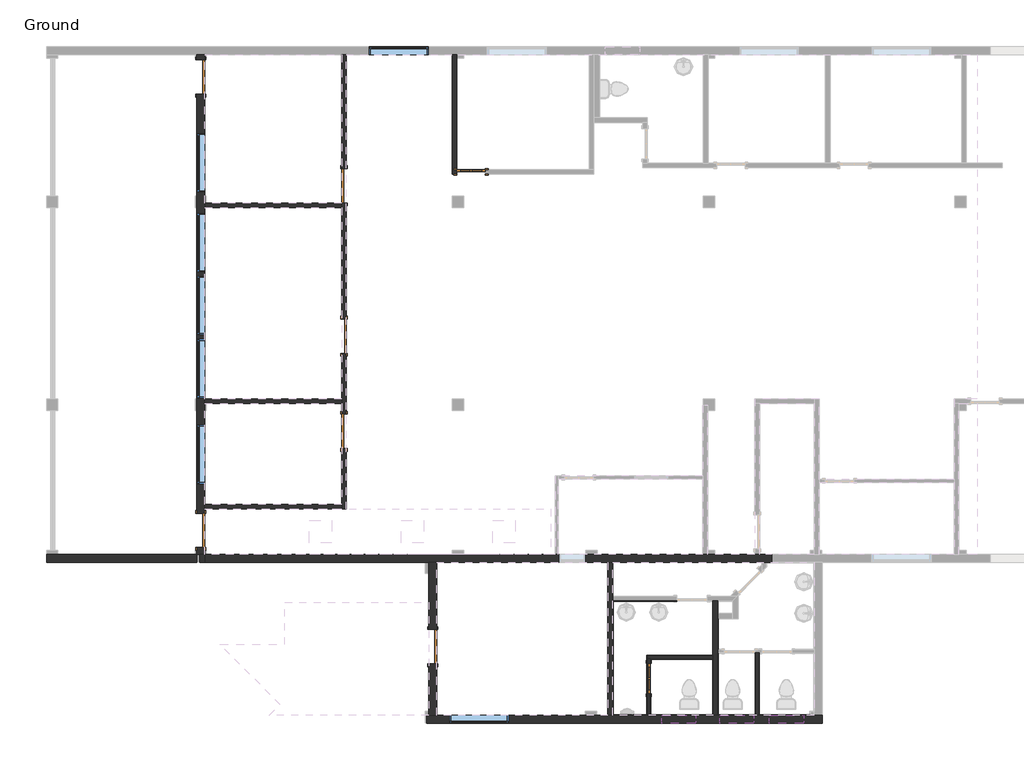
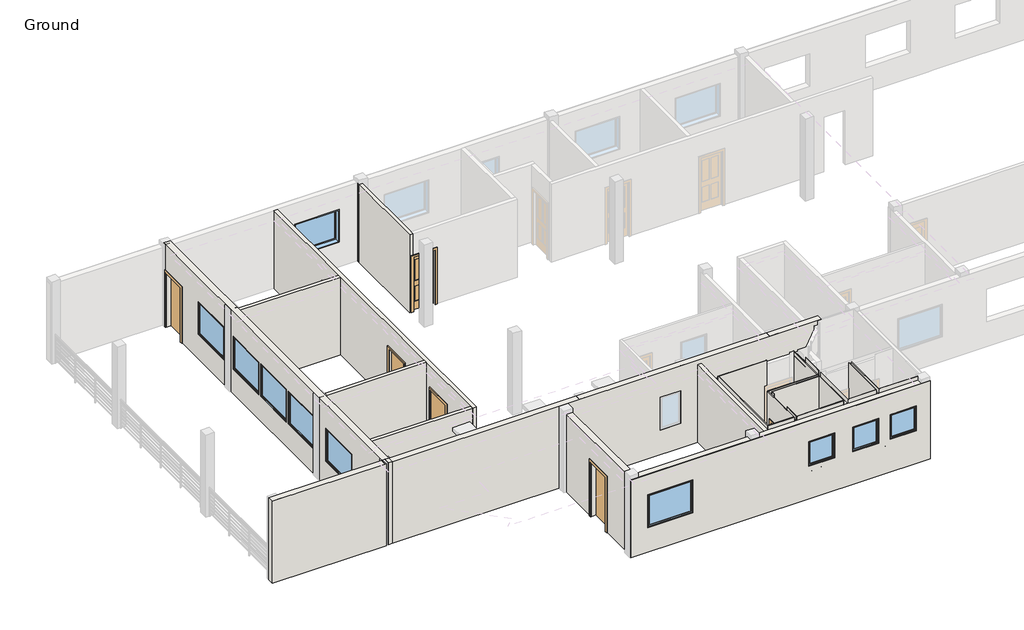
# One storey, part 1 of 4: 33 walls, 10 windows, 8 doors.
"""IFC4 building model written with IfcOpenShell, lengths in millimetres."""

from ifc_helpers import new_model, si_unit, frame, origin, origin_with_axes, place, context, project, spatial, polyline, outline, extrude, faceted_brep, transform, mapped, element, save
from components import door_43f271b1, door_0f3f7c0c, door_dce19e30, door_55521cee, door_bfc1a142, door_456b505c, fixed_3_x_3_w3_42a4cb5f, window_a0bf6c86

model = new_model("IFC4")

# Units and contexts
model_context = context("Model", 3, world=origin())
ifc_project = project(units=[si_unit("LENGTHUNIT", "METRE", prefix="MILLI")], contexts=[model_context])

# Site, building, storey
site = spatial("IfcSite", under=ifc_project)
building = spatial("IfcBuilding", under=site)
storey = spatial("IfcBuildingStorey", under=building, Name="Ground", Elevation=0.0)

# Doors
placement = place(None, origin())
door_shape = door_43f271b1(model_context)
element("IfcDoor", 1, ObjectType="Single-Flush : 36\" x 80\" - D1", at=placement, inside=storey, context=model_context, shape_type="MappedRepresentation", body=[
    mapped(door_shape, transform((-36104.115324, 12255.47279, 0.0), x_axis=(0.0, 1.0, 0.0), y_axis=(-1.0, 0.0, 0.0), z_axis=(0.0, 0.0, 1.0))),
])
element("IfcDoor", 2, ObjectType="Single-Flush : 36\" x 80\" - D1", at=placement, inside=storey, context=model_context, shape_type="MappedRepresentation", body=[
    mapped(door_shape, transform((-36104.115324, 14793.88529, 0.0), x_axis=(0.0, -1.0, 0.0), y_axis=(1.0, 0.0, 0.0), z_axis=(0.0, 0.0, 1.0))),
])
door_2_shape = door_0f3f7c0c(model_context)
element("IfcDoor", 3, ObjectType="Single-Flush : 36\" x 80\" - D1", at=placement, inside=storey, context=model_context, shape_type="MappedRepresentation", body=[
    mapped(door_2_shape, transform((-36104.115324, 18807.08529, 0.0), x_axis=(0.0, -1.0, 0.0), y_axis=(1.0, 0.0, 0.0), z_axis=(0.0, 0.0, 1.0))),
])
door_3_shape = door_dce19e30(model_context)
element("IfcDoor", 4, ObjectType="Single-Flush : 36\" x 80\" - D1", at=placement, inside=storey, context=model_context, shape_type="MappedRepresentation", body=[
    mapped(door_3_shape, transform((-39928.402824, 9610.9623734, 0.0), x_axis=(0.0, -1.0, 0.0), y_axis=(1.0, 0.0, 0.0), z_axis=(0.0, 0.0, 1.0))),
])
element("IfcDoor", 5, ObjectType="Single-Flush : 36\" x 80\" - D1", at=placement, inside=storey, context=model_context, shape_type="MappedRepresentation", body=[
    mapped(door_3_shape, transform((-33741.915324, 6503.96029, 0.0), x_axis=(0.0, -1.0, 0.0), y_axis=(1.0, 0.0, 0.0), z_axis=(0.0, 0.0, 1.0))),
])
door_4_shape = door_55521cee(model_context)
element("IfcDoor", 6, ObjectType="Single-Flush : 36\" x 80\" - D1", at=placement, inside=storey, context=model_context, shape_type="MappedRepresentation", body=[
    mapped(door_4_shape, transform((-39928.402824, 21710.62279, 0.0), x_axis=(0.0, 1.0, 0.0), y_axis=(-1.0, 0.0, 0.0), z_axis=(0.0, 0.0, 1.0))),
])
door_5_shape = door_bfc1a142(model_context)
element("IfcDoor", 7, ObjectType="Single-Glass 3 : 30\" x 80\" - D3", at=placement, inside=storey, context=model_context, shape_type="MappedRepresentation", body=[
    mapped(door_5_shape, transform((-32717.977824, 19180.14779, 0.0), x_axis=(-1.0, 0.0, 0.0), y_axis=(0.0, -1.0, 0.0), z_axis=(0.0, 0.0, 1.0))),
])
door_6_shape = door_456b505c(model_context)
element("IfcDoor", 8, ObjectType="Single-Glass 3 : 32\" x 80\" - D2", at=placement, inside=storey, context=model_context, shape_type="MappedRepresentation", body=[
    mapped(door_6_shape, transform((-27979.290324, 5653.06029, 0.0), x_axis=(0.0, 1.0, 0.0), y_axis=(-1.0, 0.0, 0.0), z_axis=(0.0, 0.0, 1.0))),
])

# Walls
element("IfcWall", 9, ObjectType="0.5\" wall tiles-4\" x 6\"", at=placement, inside=storey, context=model_context, shape_type="Brep", body=[
    faceted_brep([(-27229.812848, 7724.74779, 0.0), (-28941.315324, 7724.74779, 0.0), (-28941.315324, 7724.74779, 3048.0), (-27229.812848, 7724.74779, 3048.0), (-27229.812848, 7712.04779, 0.0), (-27229.812848, 7712.04779, 3048.0), (-28928.615324, 7712.04779, 3048.0), (-28941.315324, 7712.04779, 3048.0), (-28941.315324, 7712.04779, 0.0), (-28928.615324, 7712.04779, 0.0)], [[[0, 1, 2, 3]], [[4, 5, 6, 7, 8, 9]], [[1, 0, 4, 9, 8]], [[3, 2, 7, 6, 5]], [[0, 3, 5, 4]], [[2, 1, 8, 7]]]),
])
element("IfcWall", 10, ObjectType="0.5\" wall tiles-4\" x 6\"", at=placement, inside=storey, context=model_context, shape_type="Brep", body=[
    faceted_brep([(-28941.315324, 7712.04779, 0.0), (-28941.315324, 4675.16029, 0.0), (-28941.315324, 4675.16029, 3048.0), (-28941.315324, 7712.04779, 3048.0), (-28928.615324, 7712.04779, 0.0), (-28928.615324, 7712.04779, 3048.0), (-28928.615324, 4687.86029, 3048.0), (-28928.615324, 4675.16029, 3048.0), (-28928.615324, 4675.16029, 0.0), (-28928.615324, 4687.86029, 0.0)], [[[0, 1, 2, 3]], [[4, 5, 6, 7, 8, 9]], [[1, 0, 4, 9, 8]], [[3, 2, 7, 6, 5]], [[2, 1, 8, 7]], [[0, 3, 5, 4]]]),
])
element("IfcWall", 11, ObjectType="0.5\" wall tiles-4\" x 6\"", at=placement, inside=storey, context=model_context, shape_type="Brep", body=[
    faceted_brep([(-28928.615324, 4675.16029, 0.0), (-28018.977824, 4675.16029, 0.0), (-28018.977824, 4675.16029, 3048.0), (-28928.615324, 4675.16029, 3048.0), (-28928.615324, 4687.86029, 0.0), (-28928.615324, 4687.86029, 3048.0), (-28031.677824, 4687.86029, 3048.0), (-28018.977824, 4687.86029, 3048.0), (-28018.977824, 4687.86029, 0.0), (-28031.677824, 4687.86029, 0.0)], [[[0, 1, 2, 3]], [[4, 5, 6, 7, 8, 9]], [[1, 0, 4, 9, 8]], [[3, 2, 7, 6, 5]], [[2, 1, 8, 7]], [[0, 3, 5, 4]]]),
])
element("IfcWall", 12, ObjectType="0.5\" wall tiles-4\" x 6\"", at=placement, inside=storey, context=model_context, shape_type="Brep", body=[
    faceted_brep([(-28018.977824, 4687.86029, 0.0), (-28018.977824, 6265.83529, 0.0), (-28018.977824, 6278.53529, 0.0), (-28018.977824, 6278.53529, 3048.0), (-28018.977824, 6265.83529, 3048.0), (-28018.977824, 4687.86029, 3048.0), (-28031.677824, 4687.86029, 0.0), (-28031.677824, 4687.86029, 3048.0), (-28031.677824, 6278.53529, 3048.0), (-28031.677824, 6278.53529, 0.0)], [[[0, 1, 2, 3, 4, 5]], [[6, 7, 8, 9]], [[2, 1, 0, 6, 9]], [[5, 4, 3, 8, 7]], [[3, 2, 9, 8]], [[0, 5, 7, 6]]]),
])
element("IfcWall", 13, ObjectType="0.5\" wall tiles-4\" x 6\"", at=placement, inside=storey, context=model_context, shape_type="Brep", body=[
    faceted_brep([(-28018.977824, 6265.83529, 0.0), (-26263.202824, 6265.83529, 0.0), (-26263.202824, 6265.83529, 3048.0), (-28018.977824, 6265.83529, 3048.0), (-28018.977824, 6278.53529, 0.0), (-28018.977824, 6278.53529, 3048.0), (-26275.902824, 6278.53529, 3048.0), (-26263.202824, 6278.53529, 3048.0), (-26263.202824, 6278.53529, 0.0), (-26275.902824, 6278.53529, 0.0)], [[[0, 1, 2, 3]], [[4, 5, 6, 7, 8, 9]], [[1, 0, 4, 9, 8]], [[3, 2, 7, 6, 5]], [[2, 1, 8, 7]], [[0, 3, 5, 4]]]),
])
element("IfcWall", 14, ObjectType="0.5\" wall tiles-4\" x 6\"", at=placement, inside=storey, context=model_context, shape_type="Brep", body=[
    faceted_brep([(-26263.202824, 6278.53529, 0.0), (-26263.202824, 7724.74779, 0.0), (-26263.202824, 7724.74779, 3048.0), (-26263.202824, 6278.53529, 3048.0), (-26275.902824, 6278.53529, 0.0), (-26275.902824, 6278.53529, 3048.0), (-26275.902824, 7712.04779, 3048.0), (-26275.902824, 7724.74779, 3048.0), (-26275.902824, 7724.74779, 0.0), (-26275.902824, 7712.04779, 0.0)], [[[0, 1, 2, 3]], [[4, 5, 6, 7, 8, 9]], [[1, 0, 4, 9, 8]], [[3, 2, 7, 6, 5]], [[2, 1, 8, 7]], [[0, 3, 5, 4]]]),
])
element("IfcWall", 15, ObjectType="0.5\" wall tiles-4\" x 6\"", at=placement, inside=storey, context=model_context, shape_type="Brep", body=[
    faceted_brep([(-26263.202824, 6186.46029, 0.0), (-27939.602824, 6186.46029, 0.0), (-27939.602824, 6186.46029, 3048.0), (-26263.202824, 6186.46029, 3048.0), (-26263.202824, 6173.76029, 0.0), (-26263.202824, 6173.76029, 3048.0), (-26275.902824, 6173.76029, 3048.0), (-27926.902824, 6173.76029, 3048.0), (-27939.602824, 6173.76029, 3048.0), (-27939.602824, 6173.76029, 0.0), (-27926.902824, 6173.76029, 0.0), (-26275.902824, 6173.76029, 0.0)], [[[0, 1, 2, 3]], [[4, 5, 6, 7, 8, 9, 10, 11]], [[1, 0, 4, 11, 10, 9]], [[3, 2, 8, 7, 6, 5]], [[2, 1, 9, 8]], [[0, 3, 5, 4]]]),
])
element("IfcWall", 16, ObjectType="0.5\" wall tiles-4\" x 6\"", at=placement, inside=storey, context=model_context, shape_type="SweptSolid", body=[
    extrude(outline(polyline([(-27939.602824, 6059.46029), (-27939.602824, 6173.76029), (-27926.902824, 6173.76029), (-27926.902824, 6059.46029), (-27939.602824, 6059.46029)])), origin_with_axes(), (0.0, 0.0, 1.0), 3048.0),
])
element("IfcWall", 17, ObjectType="0.5\" wall tiles-4\" x 6\"", at=placement, inside=storey, context=model_context, shape_type="Brep", body=[
    faceted_brep([(-26263.202824, 4675.16029, 0.0), (-26263.202824, 6173.76029, 0.0), (-26263.202824, 6173.76029, 3048.0), (-26263.202824, 4675.16029, 3048.0), (-26275.902824, 4675.16029, 0.0), (-26275.902824, 4675.16029, 3048.0), (-26275.902824, 4687.86029, 3048.0), (-26275.902824, 6173.76029, 3048.0), (-26275.902824, 6173.76029, 0.0), (-26275.902824, 4687.86029, 0.0)], [[[0, 1, 2, 3]], [[4, 5, 6, 7, 8, 9]], [[1, 0, 4, 9, 8]], [[3, 2, 7, 6, 5]], [[0, 3, 5, 4]], [[2, 1, 8, 7]]]),
])
element("IfcWall", 18, ObjectType="0.5\" wall tiles-4\" x 6\"", at=placement, inside=storey, context=model_context, shape_type="Brep", body=[
    faceted_brep([(-27939.602824, 5245.2502661, 0.0), (-27939.602824, 4675.16029, 0.0), (-27939.602824, 4675.16029, 3048.0), (-27939.602824, 5245.2502661, 3048.0), (-27926.902824, 5245.2502661, 0.0), (-27926.902824, 5245.2502661, 3048.0), (-27926.902824, 4687.86029, 3048.0), (-27926.902824, 4675.16029, 3048.0), (-27926.902824, 4675.16029, 0.0), (-27926.902824, 4687.86029, 0.0)], [[[0, 1, 2, 3]], [[4, 5, 6, 7, 8, 9]], [[1, 0, 4, 9, 8]], [[3, 2, 7, 6, 5]], [[0, 3, 5, 4]], [[2, 1, 8, 7]]]),
])
element("IfcWall", 19, ObjectType="0.5\" wall tiles-4\" x 6\"", at=placement, inside=storey, context=model_context, shape_type="SweptSolid", body=[
    extrude(outline(polyline([(-26275.902824, 4675.16029), (-27926.902824, 4675.16029), (-27926.902824, 4687.86029), (-26275.902824, 4687.86029), (-26275.902824, 4675.16029)])), origin_with_axes(), (0.0, 0.0, 1.0), 3048.0),
])
element("IfcWall", 20, ObjectType="0.5\" wall tiles-4\" x 6\"", at=placement, inside=storey, context=model_context, shape_type="Brep", body=[
    faceted_brep([(-26136.202824, 7242.14779, 0.0), (-26136.202824, 6430.93529, 0.0), (-26136.202824, 6430.93529, 3048.0), (-26136.202824, 7242.14779, 3048.0), (-26136.202824, 7242.14779, 2743.2), (-26123.502824, 7242.14779, 0.0), (-26123.502824, 7242.14779, 3048.0), (-26123.502824, 6430.93529, 3048.0), (-26123.502824, 6430.93529, 0.0)], [[[0, 1, 2, 3, 4]], [[5, 6, 7, 8]], [[1, 0, 5, 8]], [[3, 2, 7, 6]], [[2, 1, 8, 7]], [[0, 4, 3, 6, 5]]]),
])
element("IfcWall", 21, ObjectType="0.5\" wall tiles-4\" x 6\"", at=placement, inside=storey, context=model_context, shape_type="Brep", body=[
    faceted_brep([(-26136.202824, 6326.16029, 0.0), (-26136.202824, 4675.16029, 0.0), (-26136.202824, 4675.16029, 3048.0), (-26136.202824, 6326.16029, 3048.0), (-26123.502824, 6326.16029, 0.0), (-26123.502824, 6326.16029, 3048.0), (-26123.502824, 4687.86029, 3048.0), (-26123.502824, 4675.16029, 3048.0), (-26123.502824, 4675.16029, 0.0), (-26123.502824, 4687.86029, 0.0)], [[[0, 1, 2, 3]], [[4, 5, 6, 7, 8, 9]], [[1, 0, 4, 9, 8]], [[3, 2, 7, 6, 5]], [[2, 1, 8, 7]], [[0, 3, 5, 4]]]),
])
element("IfcWall", 22, ObjectType="0.5\" wall tiles-4\" x 6\"", at=placement, inside=storey, context=model_context, shape_type="Brep", body=[
    faceted_brep([(-26123.502824, 4675.16029, 0.0), (-25123.377824, 4675.16029, 0.0), (-25123.377824, 4675.16029, 3048.0), (-26123.502824, 4675.16029, 3048.0), (-26123.502824, 4687.86029, 0.0), (-26123.502824, 4687.86029, 3048.0), (-25136.077824, 4687.86029, 3048.0), (-25123.377824, 4687.86029, 3048.0), (-25123.377824, 4687.86029, 0.0), (-25136.077824, 4687.86029, 0.0)], [[[0, 1, 2, 3]], [[4, 5, 6, 7, 8, 9]], [[1, 0, 4, 9, 8]], [[3, 2, 7, 6, 5]], [[2, 1, 8, 7]], [[0, 3, 5, 4]]]),
])
element("IfcWall", 23, ObjectType="0.5\" wall tiles-4\" x 6\"", at=placement, inside=storey, context=model_context, shape_type="SweptSolid", body=[
    extrude(outline(polyline([(-25123.377824, 6337.27279), (-25123.377824, 4687.86029), (-25136.077824, 4687.86029), (-25136.077824, 6337.27279), (-25123.377824, 6337.27279)])), origin_with_axes(), (0.0, 0.0, 1.0), 3048.0),
])
element("IfcWall", 24, ObjectType="0.5\" wall tiles-4\" x 6\"", at=placement, inside=storey, context=model_context, shape_type="Brep", body=[
    faceted_brep([(-25044.002824, 6337.27279, 0.0), (-25044.002824, 4675.16029, 0.0), (-25044.002824, 4675.16029, 3048.0), (-25044.002824, 6337.27279, 3048.0), (-25031.302824, 6337.27279, 0.0), (-25031.302824, 6337.27279, 3048.0), (-25031.302824, 4687.86029, 3048.0), (-25031.302824, 4675.16029, 3048.0), (-25031.302824, 4675.16029, 0.0), (-25031.302824, 4687.86029, 0.0)], [[[0, 1, 2, 3]], [[4, 5, 6, 7, 8, 9]], [[1, 0, 4, 9, 8]], [[3, 2, 7, 6, 5]], [[0, 3, 5, 4]], [[2, 1, 8, 7]]]),
])
element("IfcWall", 25, ObjectType="0.5\" wall tiles-4\" x 6\"", at=placement, inside=storey, context=model_context, shape_type="Brep", body=[
    faceted_brep([(-25031.302824, 4675.16029, 0.0), (-23664.465324, 4675.16029, 0.0), (-23664.465324, 4675.16029, 3048.0), (-25031.302824, 4675.16029, 3048.0), (-25031.302824, 4687.86029, 0.0), (-25031.302824, 4687.86029, 3048.0), (-23677.165324, 4687.86029, 3048.0), (-23664.465324, 4687.86029, 3048.0), (-23664.465324, 4687.86029, 0.0), (-23677.165324, 4687.86029, 0.0)], [[[0, 1, 2, 3]], [[4, 5, 6, 7, 8, 9]], [[1, 0, 4, 9, 8]], [[3, 2, 7, 6, 5]], [[2, 1, 8, 7]], [[0, 3, 5, 4]]]),
])
element("IfcWall", 26, ObjectType="Generic - 8\" Masonry existing", at=placement, inside=storey, context=model_context, shape_type="Brep", body=[
    faceted_brep([(-39818.865324, 8972.52279, 0.0), (-39961.740324, 8972.52279, 0.0), (-40037.940324, 8972.52279, 0.0), (-40037.940324, 9153.7623734, 0.0), (-39818.865324, 9153.7623734, 0.0), (-40037.940324, 22307.52279, 0.0), (-39818.865324, 22307.52279, 0.0), (-39818.865324, 22167.82279, 0.0), (-40037.940324, 22167.82279, 0.0), (-39818.865324, 10068.1623734, 0.0), (-40037.940324, 10068.1623734, 0.0), (-40037.940324, 21253.42279, 0.0), (-39818.865324, 21253.42279, 0.0), (-39818.865324, 18349.88529, 0.0), (-39818.865324, 18226.06029, 0.0), (-39818.865324, 13117.48529, 0.0), (-39818.865324, 12993.66029, 0.0), (-39818.865324, 10304.9644567, 0.0), (-39818.865324, 10181.1394567, 0.0), (-40037.940324, 22307.52279, 3048.0), (-40037.940324, 8972.52279, 3048.0), (-39961.740324, 8972.52279, 3048.0), (-39818.865324, 8972.52279, 3048.0), (-39818.865324, 22307.52279, 3048.0), (-40037.940324, 22167.82279, 2032.0), (-40037.940324, 21253.42279, 2032.0), (-40037.940324, 10068.1623734, 2032.0), (-40037.940324, 9153.7623734, 2032.0), (-40037.940324, 12426.92279, 914.4), (-40037.940324, 12426.92279, 2133.6), (-40037.940324, 10852.12279, 2133.6), (-40037.940324, 10852.12279, 914.4), (-40037.940324, 14716.09779, 2133.6), (-40037.940324, 13141.29779, 2133.6), (-40037.940324, 13141.29779, 914.4), (-40037.940324, 14716.09779, 914.4), (-40037.940324, 16402.02279, 2133.6), (-40037.940324, 14827.22279, 2133.6), (-40037.940324, 14827.22279, 914.4), (-40037.940324, 16402.02279, 914.4), (-40037.940324, 18078.42279, 2133.6), (-40037.940324, 16503.62279, 2133.6), (-40037.940324, 16503.62279, 914.4), (-40037.940324, 18078.42279, 914.4), (-40037.940324, 20212.02279, 2133.6), (-40037.940324, 18637.22279, 2133.6), (-40037.940324, 18637.22279, 914.4), (-40037.940324, 20212.02279, 914.4), (-39818.865324, 9153.7623734, 2032.0), (-39818.865324, 10068.1623734, 2032.0), (-39818.865324, 21253.42279, 2032.0), (-39818.865324, 22167.82279, 2032.0), (-39818.865324, 12426.92279, 2133.6), (-39818.865324, 12426.92279, 914.4), (-39818.865324, 10852.12279, 914.4), (-39818.865324, 10852.12279, 2133.6), (-39818.865324, 14716.09779, 2133.6), (-39818.865324, 14716.09779, 914.4), (-39818.865324, 13141.29779, 914.4), (-39818.865324, 13141.29779, 2133.6), (-39818.865324, 16402.02279, 2133.6), (-39818.865324, 16402.02279, 914.4), (-39818.865324, 14827.22279, 914.4), (-39818.865324, 14827.22279, 2133.6), (-39818.865324, 18078.42279, 2133.6), (-39818.865324, 18078.42279, 914.4), (-39818.865324, 16503.62279, 914.4), (-39818.865324, 16503.62279, 2133.6), (-39818.865324, 20212.02279, 2133.6), (-39818.865324, 20212.02279, 914.4), (-39818.865324, 18637.22279, 914.4), (-39818.865324, 18637.22279, 2133.6)], [[[0, 1, 2, 3, 4]], [[5, 6, 7, 8]], [[9, 10, 11, 12, 13, 14, 15, 16, 17, 18]], [[19, 20, 21, 22, 23]], [[20, 19, 5, 8, 24, 25, 11, 10, 26, 27, 3, 2], [28, 29, 30, 31], [32, 33, 34, 35], [36, 37, 38, 39], [40, 41, 42, 43], [44, 45, 46, 47]], [[23, 22, 0, 4, 48, 49, 9, 18, 17, 16, 15, 14, 13, 12, 50, 51, 7, 6], [52, 53, 54, 55], [56, 57, 58, 59], [60, 61, 62, 63], [64, 65, 66, 67], [68, 69, 70, 71]], [[20, 2, 1, 0, 22, 21]], [[5, 19, 23, 6]], [[48, 4, 3, 27]], [[49, 48, 27, 26]], [[9, 49, 26, 10]], [[24, 8, 7, 51]], [[25, 24, 51, 50]], [[11, 25, 50, 12]], [[52, 29, 28, 53]], [[53, 28, 31, 54]], [[30, 55, 54, 31]], [[29, 52, 55, 30]], [[57, 56, 32, 35]], [[58, 57, 35, 34]], [[59, 58, 34, 33]], [[56, 59, 33, 32]], [[61, 60, 36, 39]], [[62, 61, 39, 38]], [[63, 62, 38, 37]], [[60, 63, 37, 36]], [[65, 64, 40, 43]], [[66, 65, 43, 42]], [[67, 66, 42, 41]], [[64, 67, 41, 40]], [[69, 68, 44, 47]], [[70, 69, 47, 46]], [[71, 70, 46, 45]], [[68, 71, 45, 44]]]),
])
element("IfcWall", 27, ObjectType="Generic - 8\" Masonry existing", at=placement, inside=storey, context=model_context, shape_type="SweptSolid", body=[
    extrude(outline(polyline([(-40037.940324, 8753.44779), (-44043.202824, 8753.44779), (-44043.202824, 8972.52279), (-40037.940324, 8972.52279), (-40037.940324, 8753.44779)])), origin_with_axes(), (0.0, 0.0, 1.0), 3048.0),
])
element("IfcWall", 28, ObjectType="Generic - 8\" Masonry existing", at=placement, inside=storey, context=model_context, shape_type="SweptSolid", body=[
    extrude(outline(polyline([(6046.76029, 2032.0), (6046.76029, 0.0), (4675.16029, 0.0), (4675.16029, 2895.6), (8753.44779, 2895.6), (8753.44779, 0.0), (6961.16029, 0.0), (6961.16029, 2032.0), (6046.76029, 2032.0)])), frame((-33851.452824, 0.0, 0.0), z_axis=(1.0, 0.0, 0.0), x_axis=(0.0, 1.0, 0.0)), (0.0, 0.0, 1.0), 219.075),
])
element("IfcWall", 29, ObjectType="Generic - 8\" Masonry existing", at=placement, inside=storey, context=model_context, shape_type="Brep", body=[
    faceted_brep([(-33900.8582358, 4456.08529, 0.0), (-33900.8582358, 4456.08529, 2895.6), (-33900.8582358, 4468.78529, 2895.6), (-33900.8582358, 4675.16029, 2895.6), (-33900.8582358, 4675.16029, 0.0), (-23346.965324, 4456.08529, 0.0), (-33851.452824, 4675.16029, 0.0), (-33632.377824, 4675.16029, 0.0), (-29065.140324, 4675.16029, 0.0), (-28941.315324, 4675.16029, 0.0), (-28018.977824, 4675.16029, 0.0), (-27939.602824, 4675.16029, 0.0), (-26263.202824, 4675.16029, 0.0), (-26136.202824, 4675.16029, 0.0), (-25123.377824, 4675.16029, 0.0), (-25044.002824, 4675.16029, 0.0), (-23566.040324, 4675.16029, 0.0), (-23346.965324, 4675.16029, 0.0), (-23346.965324, 4456.08529, 2895.6), (-23359.665324, 4456.08529, 2895.6), (-27634.802824, 4456.08529, 2133.6), (-26720.402824, 4456.08529, 2133.6), (-26720.402824, 4456.08529, 1219.2), (-27634.802824, 4456.08529, 1219.2), (-26086.990324, 4456.08529, 2133.6), (-25172.590324, 4456.08529, 2133.6), (-25172.590324, 4456.08529, 1219.2), (-26086.990324, 4456.08529, 1219.2), (-24762.221574, 4456.08529, 2133.6), (-23847.821574, 4456.08529, 2133.6), (-23847.821574, 4456.08529, 1219.2), (-24762.221574, 4456.08529, 1219.2), (-33292.652824, 4456.08529, 2133.6), (-31717.852824, 4456.08529, 2133.6), (-31717.852824, 4456.08529, 914.4), (-33292.652824, 4456.08529, 914.4), (-33851.452824, 4675.16029, 2895.6), (-33632.377824, 4675.16029, 2895.6), (-29065.140324, 4675.16029, 2895.6), (-28941.315324, 4675.16029, 2895.6), (-28018.977824, 4675.16029, 2895.6), (-27939.602824, 4675.16029, 2895.6), (-26263.202824, 4675.16029, 2895.6), (-26136.202824, 4675.16029, 2895.6), (-25123.377824, 4675.16029, 2895.6), (-25044.002824, 4675.16029, 2895.6), (-23566.040324, 4675.16029, 2895.6), (-23359.665324, 4675.16029, 2895.6), (-23346.965324, 4675.16029, 2895.6), (-27634.802824, 4675.16029, 2133.6), (-27634.802824, 4675.16029, 1219.2), (-26720.402824, 4675.16029, 1219.2), (-26720.402824, 4675.16029, 2133.6), (-26086.990324, 4675.16029, 2133.6), (-26086.990324, 4675.16029, 1219.2), (-25172.590324, 4675.16029, 1219.2), (-25172.590324, 4675.16029, 2133.6), (-24762.221574, 4675.16029, 2133.6), (-24762.221574, 4675.16029, 1219.2), (-23847.821574, 4675.16029, 1219.2), (-23847.821574, 4675.16029, 2133.6), (-33292.652824, 4675.16029, 2133.6), (-33292.652824, 4675.16029, 914.4), (-31717.852824, 4675.16029, 914.4), (-31717.852824, 4675.16029, 2133.6), (-23346.965324, 4468.78529, 2895.6), (-23359.665324, 4468.78529, 2895.6)], [[[0, 1, 2, 3, 4]], [[5, 0, 4, 6, 7, 8, 9, 10, 11, 12, 13, 14, 15, 16, 17]], [[0, 5, 18, 19, 1], [20, 21, 22, 23], [24, 25, 26, 27], [28, 29, 30, 31], [32, 33, 34, 35]], [[4, 3, 36, 37, 38, 39, 40, 41, 42, 43, 44, 45, 46, 47, 48, 17, 16, 15, 14, 13, 12, 11, 10, 9, 8, 7, 6], [49, 50, 51, 52], [53, 54, 55, 56], [57, 58, 59, 60], [61, 62, 63, 64]], [[18, 5, 17, 48, 65]], [[1, 19, 66, 2]], [[65, 48, 47, 66]], [[19, 18, 65, 66]], [[66, 47, 46, 45, 44, 43, 42, 41, 40, 39, 38, 37, 36, 3, 2]], [[50, 49, 20, 23]], [[51, 50, 23, 22]], [[52, 51, 22, 21]], [[49, 52, 21, 20]], [[54, 53, 24, 27]], [[55, 54, 27, 26]], [[56, 55, 26, 25]], [[53, 56, 25, 24]], [[58, 57, 28, 31]], [[59, 58, 31, 30]], [[60, 59, 30, 29]], [[57, 60, 29, 28]], [[62, 61, 32, 35]], [[63, 62, 35, 34]], [[64, 63, 34, 33]], [[61, 64, 33, 32]]]),
])
element("IfcWall", 30, ObjectType="Generic - 8\" Masonry existing", at=placement, inside=storey, context=model_context, shape_type="Brep", body=[
    faceted_brep([(-24701.102824, 8753.44779, 3048.0), (-24701.102824, 8753.44779, 2895.6), (-24701.102824, 8753.44779, 0.0), (-24701.102824, 8972.52279, 0.0), (-24701.102824, 8972.52279, 2895.6), (-24701.102824, 8972.52279, 3048.0), (-24836.040324, 8753.44779, 0.0), (-24959.865324, 8753.44779, 0.0), (-28941.315324, 8753.44779, 0.0), (-29065.140324, 8753.44779, 0.0), (-33632.377824, 8753.44779, 0.0), (-33851.452824, 8753.44779, 0.0), (-39818.865324, 8753.44779, 0.0), (-39818.865324, 8972.52279, 0.0), (-30476.427824, 8972.52279, 0.0), (-30397.052824, 8972.52279, 0.0), (-26533.077824, 8972.52279, 0.0), (-26409.252824, 8972.52279, 0.0), (-25144.015324, 8972.52279, 0.0), (-25020.190324, 8972.52279, 0.0), (-39818.865324, 8753.44779, 3048.0), (-39818.865324, 8972.52279, 3048.0), (-30371.652824, 8753.44779, 2133.6), (-29660.452824, 8753.44779, 2133.6), (-29660.452824, 8753.44779, 914.4), (-30371.652824, 8753.44779, 914.4), (-30371.652824, 8972.52279, 2133.6), (-30371.652824, 8972.52279, 914.4), (-29660.452824, 8972.52279, 914.4), (-29660.452824, 8972.52279, 2133.6)], [[[0, 1, 2, 3, 4, 5]], [[2, 6, 7, 8, 9, 10, 11, 12, 13, 14, 15, 16, 17, 18, 19, 3]], [[20, 0, 5, 21]], [[12, 11, 10, 9, 8, 7, 6, 2, 1, 0, 20], [22, 23, 24, 25]], [[13, 21, 5, 4, 3, 19, 18, 17, 16, 15, 14], [26, 27, 28, 29]], [[12, 20, 21, 13]], [[27, 26, 22, 25]], [[28, 27, 25, 24]], [[29, 28, 24, 23]], [[26, 29, 23, 22]]]),
])
element("IfcWall", 31, ObjectType="Generic - 8\" Masonry existing", at=placement, inside=storey, context=model_context, shape_type="SweptSolid", body=[
    extrude(outline(polyline([(-39818.865324, 8753.44779), (-39961.740324, 8753.44779), (-39961.740324, 8972.52279), (-39818.865324, 8972.52279), (-39818.865324, 8753.44779)])), origin_with_axes(), (0.0, 0.0, 1.0), 3048.0),
])
element("IfcWall", 32, ObjectType="Interior - 3 1/8\" Partition (1-hr)", at=placement, inside=storey, context=model_context, shape_type="SweptSolid", body=[
    extrude(outline(polyline([(-25044.002824, 6338.86029), (-25044.002824, 4675.16029), (-25123.377824, 4675.16029), (-25123.377824, 6338.86029), (-25044.002824, 6338.86029)])), origin_with_axes(), (0.0, 0.0, 1.0), 2895.6),
])
element("IfcWall", 33, ObjectType="Interior - 3 1/8\" Partition (1-hr)", at=placement, inside=storey, context=model_context, shape_type="Brep", body=[
    faceted_brep([(-26263.202824, 6265.83529, 0.0), (-28018.977824, 6265.83529, 0.0), (-28018.977824, 6265.83529, 2895.6), (-26263.202824, 6265.83529, 2895.6), (-26263.202824, 6186.46029, 0.0), (-26263.202824, 6186.46029, 2895.6), (-27939.602824, 6186.46029, 2895.6), (-28018.977824, 6186.46029, 2895.6), (-28018.977824, 6186.46029, 0.0), (-27939.602824, 6186.46029, 0.0)], [[[0, 1, 2, 3]], [[4, 5, 6, 7, 8, 9]], [[1, 0, 4, 9, 8]], [[3, 2, 7, 6, 5]], [[2, 1, 8, 7]], [[0, 3, 5, 4]]]),
])
element("IfcWall", 34, ObjectType="Interior - 3 1/8\" Partition (1-hr)", at=placement, inside=storey, context=model_context, shape_type="SweptSolid", body=[
    extrude(outline(polyline([(4675.16029, 2895.6), (6186.46029, 2895.6), (6186.46029, 0.0), (6059.3362735, 0.0), (6059.3362735, 2032.0), (5246.5362735, 2032.0), (5246.5362735, 0.0), (4675.16029, 0.0), (4675.16029, 2895.6)])), frame((-28018.977824, 0.0, 0.0), z_axis=(1.0, 0.0, 0.0), x_axis=(0.0, 1.0, 0.0)), (0.0, 0.0, 1.0), 79.375),
])
element("IfcWall", 35, ObjectType="Interior - 5 1/2\" Partition (1-hr)", at=placement, inside=storey, context=model_context, shape_type="Brep", body=[
    faceted_brep([(-36166.027824, 12712.67279, 0.0), (-36166.027824, 12993.66029, 0.0), (-36166.027824, 13117.48529, 0.0), (-36166.027824, 14336.68529, 0.0), (-36042.202824, 14336.68529, 0.0), (-36042.202824, 12712.67279, 0.0), (-36166.027824, 19264.28529, 0.0), (-36166.027824, 22307.52279, 0.0), (-36042.202824, 22307.52279, 0.0), (-36042.202824, 19264.28529, 0.0), (-36042.202824, 11798.27279, 0.0), (-36042.202824, 10181.1394567, 0.0), (-36166.027824, 10181.1394567, 0.0), (-36166.027824, 10304.9644567, 0.0), (-36166.027824, 11798.27279, 0.0), (-36166.027824, 15251.08529, 0.0), (-36166.027824, 18226.06029, 0.0), (-36166.027824, 18349.88529, 0.0), (-36042.202824, 18349.88529, 0.0), (-36042.202824, 15251.08529, 0.0), (-36166.027824, 22307.52279, 2895.6), (-36166.027824, 18349.88529, 2895.6), (-36166.027824, 18226.06029, 2895.6), (-36166.027824, 13117.48529, 2895.6), (-36166.027824, 12993.66029, 2895.6), (-36166.027824, 10304.9644567, 2895.6), (-36166.027824, 10181.1394567, 2895.6), (-36042.202824, 10181.1394567, 2895.6), (-36042.202824, 22307.52279, 2895.6), (-36166.027824, 14336.68529, 2032.0), (-36166.027824, 12712.67279, 2032.0), (-36166.027824, 11798.27279, 2032.0), (-36166.027824, 19264.28529, 2032.0), (-36166.027824, 18349.88529, 2032.0), (-36166.027824, 15251.08529, 2032.0), (-36042.202824, 14336.68529, 2032.0), (-36042.202824, 15251.08529, 2032.0), (-36042.202824, 18349.88529, 2032.0), (-36042.202824, 19264.28529, 2032.0), (-36042.202824, 11798.27279, 2032.0), (-36042.202824, 12712.67279, 2032.0)], [[[0, 1, 2, 3, 4, 5]], [[6, 7, 8, 9]], [[10, 11, 12, 13, 14]], [[15, 16, 17, 18, 19]], [[20, 21, 22, 23, 24, 25, 26, 27, 28]], [[29, 3, 2, 1, 0, 30, 31, 14, 13, 12, 26, 25, 24, 23, 22, 21, 20, 7, 6, 32, 33, 17, 16, 15, 34]], [[5, 4, 35, 36, 19, 18, 37, 38, 9, 8, 28, 27, 11, 10, 39, 40]], [[7, 20, 28, 8]], [[26, 12, 11, 27]], [[37, 18, 17, 33]], [[38, 37, 33, 32]], [[9, 38, 32, 6]], [[30, 0, 5, 40]], [[31, 30, 40, 39]], [[14, 31, 39, 10]], [[35, 4, 3, 29]], [[36, 35, 29, 34]], [[19, 36, 34, 15]]]),
])
element("IfcWall", 36, ObjectType="Interior - 5 1/2\" Partition (1-hr)", at=placement, inside=storey, context=model_context, shape_type="Brep", body=[
    faceted_brep([(-39818.865324, 18226.06029, 0.0), (-36166.027824, 18226.06029, 0.0), (-36166.027824, 18226.06029, 2895.6), (-39818.865324, 18226.06029, 2895.6), (-39818.865324, 18349.88529, 0.0), (-39818.865324, 18349.88529, 2895.6), (-36166.027824, 18349.88529, 2895.6), (-36166.027824, 18349.88529, 2032.0), (-36166.027824, 18349.88529, 0.0)], [[[0, 1, 2, 3]], [[4, 5, 6, 7, 8]], [[1, 0, 4, 8]], [[3, 2, 6, 5]], [[2, 1, 8, 7, 6]], [[0, 3, 5, 4]]]),
])
element("IfcWall", 37, ObjectType="Interior - 5 1/2\" Partition (1-hr)", at=placement, inside=storey, context=model_context, shape_type="SweptSolid", body=[
    extrude(outline(polyline([(-36166.027824, 12993.66029), (-39818.865324, 12993.66029), (-39818.865324, 13117.48529), (-36166.027824, 13117.48529), (-36166.027824, 12993.66029)])), origin_with_axes(), (0.0, 0.0, 1.0), 2895.6),
])
element("IfcWall", 38, ObjectType="Interior - 5 1/2\" Partition (1-hr)", at=placement, inside=storey, context=model_context, shape_type="Brep", body=[
    faceted_brep([(-33222.802824, 19118.23529, 0.0), (-33222.802824, 22307.52279, 0.0), (-33098.977824, 22307.52279, 0.0), (-33098.977824, 19118.23529, 0.0), (-33222.802824, 22307.52279, 2895.6), (-33222.802824, 19118.23529, 2895.6), (-33098.977824, 19118.23529, 2895.6), (-33098.977824, 19242.06029, 2895.6), (-33098.977824, 22307.52279, 2895.6), (-33098.977824, 19118.23529, 2032.0)], [[[0, 1, 2, 3]], [[4, 5, 6, 7, 8]], [[1, 0, 5, 4]], [[2, 8, 7, 6, 9, 3]], [[1, 4, 8, 2]], [[5, 0, 3, 9, 6]]]),
])
element("IfcWall", 39, ObjectType="Interior - 5 1/2\" Partition (1-hr)", at=placement, inside=storey, context=model_context, shape_type="Brep", body=[
    faceted_brep([(-29065.140324, 8753.44779, 0.0), (-29065.140324, 4675.16029, 0.0), (-29065.140324, 4675.16029, 2895.6), (-29065.140324, 8753.44779, 2895.6), (-28941.315324, 8753.44779, 0.0), (-28941.315324, 8753.44779, 2895.6), (-28941.315324, 7851.74779, 2895.6), (-28941.315324, 7724.74779, 2895.6), (-28941.315324, 4675.16029, 2895.6), (-28941.315324, 4675.16029, 0.0), (-28941.315324, 7724.74779, 0.0), (-28941.315324, 7851.74779, 0.0)], [[[0, 1, 2, 3]], [[4, 5, 6, 7, 8, 9, 10, 11]], [[1, 0, 4, 11, 10, 9]], [[3, 2, 8, 7, 6, 5]], [[2, 1, 9, 8]], [[0, 3, 5, 4]]]),
])
element("IfcWall", 40, ObjectType="Interior - 5 1/2\" Partition (1-hr)", at=placement, inside=storey, context=model_context, shape_type="SweptSolid", body=[
    extrude(outline(polyline([(-36166.027824, 10181.1394567), (-39818.865324, 10181.1394567), (-39818.865324, 10304.9644567), (-36166.027824, 10304.9644567), (-36166.027824, 10181.1394567)])), origin_with_axes(), (0.0, 0.0, 1.0), 2895.6),
])
element("IfcWall", 41, ObjectType="Interior - 5\" Partition (2-hr)", at=placement, inside=storey, context=model_context, shape_type="Brep", body=[
    faceted_brep([(-26263.202824, 7724.74779, 0.0), (-26263.202824, 6265.83529, 0.0), (-26263.202824, 6186.46029, 0.0), (-26263.202824, 4675.16029, 0.0), (-26263.202824, 4675.16029, 2895.6), (-26263.202824, 6186.46029, 2895.6), (-26263.202824, 6265.83529, 2895.6), (-26263.202824, 7724.74779, 2895.6), (-26136.202824, 7724.74779, 0.0), (-26136.202824, 7724.74779, 2895.6), (-26136.202824, 6418.23529, 2895.6), (-26136.202824, 6338.86029, 2895.6), (-26136.202824, 4675.16029, 2895.6), (-26136.202824, 4675.16029, 0.0), (-26136.202824, 6338.86029, 0.0), (-26136.202824, 6418.23529, 0.0), (-26136.202824, 7242.14779, 0.0), (-26136.202824, 7394.54779, 0.0)], [[[0, 1, 2, 3, 4, 5, 6, 7]], [[8, 9, 10, 11, 12, 13, 14, 15, 16, 17]], [[3, 2, 1, 0, 8, 17, 16, 15, 14, 13]], [[7, 6, 5, 4, 12, 11, 10, 9]], [[4, 3, 13, 12]], [[0, 7, 9, 8]]]),
])

# Windows
fixed_3_x_3_w3_shape = fixed_3_x_3_w3_42a4cb5f(model_context)
element("IfcWindow", 42, ObjectType="Fixed : 3'x 3' - W3", at=placement, inside=storey, context=model_context, shape_type="MappedRepresentation", body=[
    mapped(fixed_3_x_3_w3_shape, transform((-24343.121574, 4565.62279, -304.8), x_axis=(-1.0, 0.0, 0.0), y_axis=(0.0, -1.0, 0.0), z_axis=(0.0, 0.0, 1.0))),
])
element("IfcWindow", 43, ObjectType="Fixed : 3'x 3' - W3", at=placement, inside=storey, context=model_context, shape_type="MappedRepresentation", body=[
    mapped(fixed_3_x_3_w3_shape, transform((-25667.890324, 4565.62279, -304.8), x_axis=(-1.0, 0.0, 0.0), y_axis=(0.0, -1.0, 0.0), z_axis=(0.0, 0.0, 1.0))),
])
element("IfcWindow", 44, ObjectType="Fixed : 3'x 3' - W3", at=placement, inside=storey, context=model_context, shape_type="MappedRepresentation", body=[
    mapped(fixed_3_x_3_w3_shape, transform((-27215.702824, 4565.62279, -304.8), x_axis=(-1.0, 0.0, 0.0), y_axis=(0.0, -1.0, 0.0), z_axis=(0.0, 0.0, 1.0))),
])
window_shape = window_a0bf6c86(model_context)
element("IfcWindow", 45, ObjectType="Fixed : 60\" x 48\" - W1", at=placement, inside=storey, context=model_context, shape_type="MappedRepresentation", body=[
    mapped(window_shape, transform((-34607.102824, 22417.06029, 0.0), x_axis=(1.0, 0.0, 0.0), y_axis=(0.0, 1.0, 0.0), z_axis=(0.0, 0.0, 1.0))),
])
element("IfcWindow", 46, ObjectType="Fixed : 60\" x 48\" - W1", at=placement, inside=storey, context=model_context, shape_type="MappedRepresentation", body=[
    mapped(window_shape, transform((-39928.402824, 19462.72279, 0.0), x_axis=(0.0, 1.0, 0.0), y_axis=(-1.0, 0.0, 0.0), z_axis=(0.0, 0.0, 1.0))),
])
element("IfcWindow", 47, ObjectType="Fixed : 60\" x 48\" - W1", at=placement, inside=storey, context=model_context, shape_type="MappedRepresentation", body=[
    mapped(window_shape, transform((-39928.402824, 17329.12279, 0.0), x_axis=(0.0, 1.0, 0.0), y_axis=(-1.0, 0.0, 0.0), z_axis=(0.0, 0.0, 1.0))),
])
element("IfcWindow", 48, ObjectType="Fixed : 60\" x 48\" - W1", at=placement, inside=storey, context=model_context, shape_type="MappedRepresentation", body=[
    mapped(window_shape, transform((-39928.402824, 15652.72279, 0.0), x_axis=(0.0, 1.0, 0.0), y_axis=(-1.0, 0.0, 0.0), z_axis=(0.0, 0.0, 1.0))),
])
element("IfcWindow", 49, ObjectType="Fixed : 60\" x 48\" - W1", at=placement, inside=storey, context=model_context, shape_type="MappedRepresentation", body=[
    mapped(window_shape, transform((-39928.402824, 13966.79779, 0.0), x_axis=(0.0, 1.0, 0.0), y_axis=(-1.0, 0.0, 0.0), z_axis=(0.0, 0.0, 1.0))),
])
element("IfcWindow", 50, ObjectType="Fixed : 60\" x 48\" - W1", at=placement, inside=storey, context=model_context, shape_type="MappedRepresentation", body=[
    mapped(window_shape, transform((-39928.402824, 11677.62279, 0.0), x_axis=(0.0, 1.0, 0.0), y_axis=(-1.0, 0.0, 0.0), z_axis=(0.0, 0.0, 1.0))),
])
element("IfcWindow", 51, ObjectType="Fixed : 60\" x 48\" - W1", at=placement, inside=storey, context=model_context, shape_type="MappedRepresentation", body=[
    mapped(window_shape, transform((-32543.352824, 4565.62279, 0.0), x_axis=(-1.0, 0.0, 0.0), y_axis=(0.0, -1.0, 0.0), z_axis=(0.0, 0.0, 1.0))),
])

save(model, "model.ifc")
